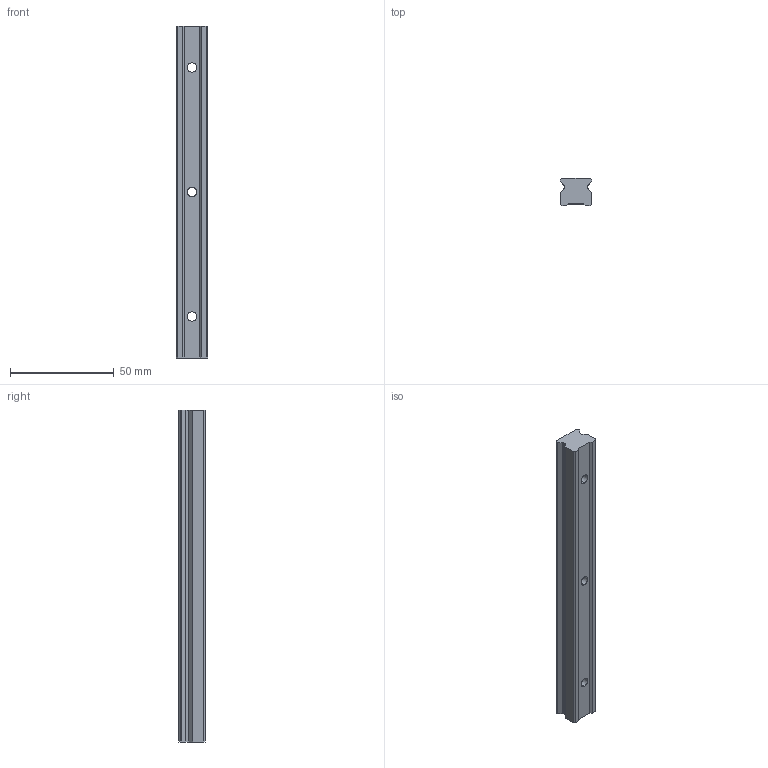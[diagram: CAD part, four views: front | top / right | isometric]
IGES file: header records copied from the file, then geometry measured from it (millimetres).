
Start section: SolidWorks IGES file using analytic representation for surfaces
Global section: file name: C:\Users\IanO\Desktop\L1016_v2\L1016.BL15_v2\L1016.BL15_v2_20190611_IGES\L1016.BL15-0160.igs; native system: SolidWorks 2017; preprocessor: SolidWorks 2017; author: IanO; date: 190612.122456; units: millimetre
Bounding box: 15 x 13 x 160 mm (x, y, z)
Surface area: 10166.2 mm2 (no closed solid volume)
Topology: 0 solids, 0 shells, 41 faces, 584 edges, 584 vertices
Faces by surface type: bspline 25, revolution 16
